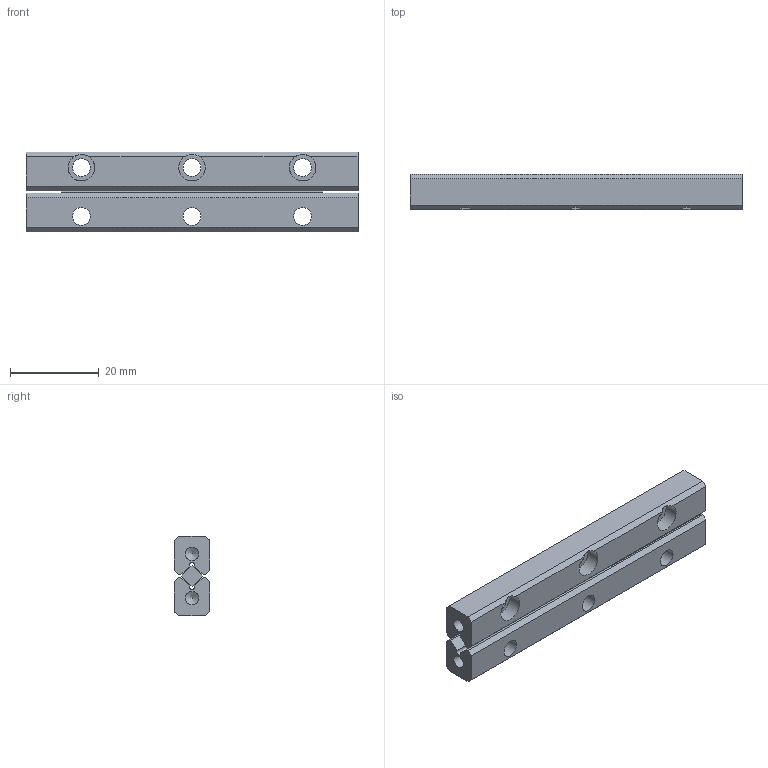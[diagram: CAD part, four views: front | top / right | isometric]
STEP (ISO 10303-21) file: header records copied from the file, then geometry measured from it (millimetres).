
FILE_DESCRIPTION((''),'2;1');
FILE_NAME('D:\製品 (図面)\カタログ用3D\リニアガイド関連\STEP形式\ACS3\ACS3075.stp','2010-07-29T15:28:32',('Tsuchiya'),(''),'Autodesk Inventor 10','Autodesk Inventor 10','');
FILE_SCHEMA(('AUTOMOTIVE_DESIGN { 1 0 10303 214 1 1 1 1 }'));
Length unit declared in the file: millimetre
Products named in the file (4): ACS3075; ACS30751; ACS30752; ACS30753
Assembly tree (3 placements, depth 2):
  ACS3075
    ACS30751
    ACS30752
    ACS30753
Bounding box: 75 x 8 x 18 mm (x, y, z)
Volume: 8881.6 mm3; surface area: 7092 mm2
Topology: 3 solids, 3 shells, 80 faces, 208 edges, 138 vertices
Faces by surface type: plane 52, bspline 22, cylinder 4, cone 2
Full cylindrical faces by diameter (mm): 3 x2
Entity records: 2565 total; most frequent: CARTESIAN_POINT 679, ORIENTED_EDGE 352, DIRECTION 348, EDGE_CURVE 176, VECTOR 134, LINE 134, VERTEX_POINT 126, EDGE_LOOP 116
